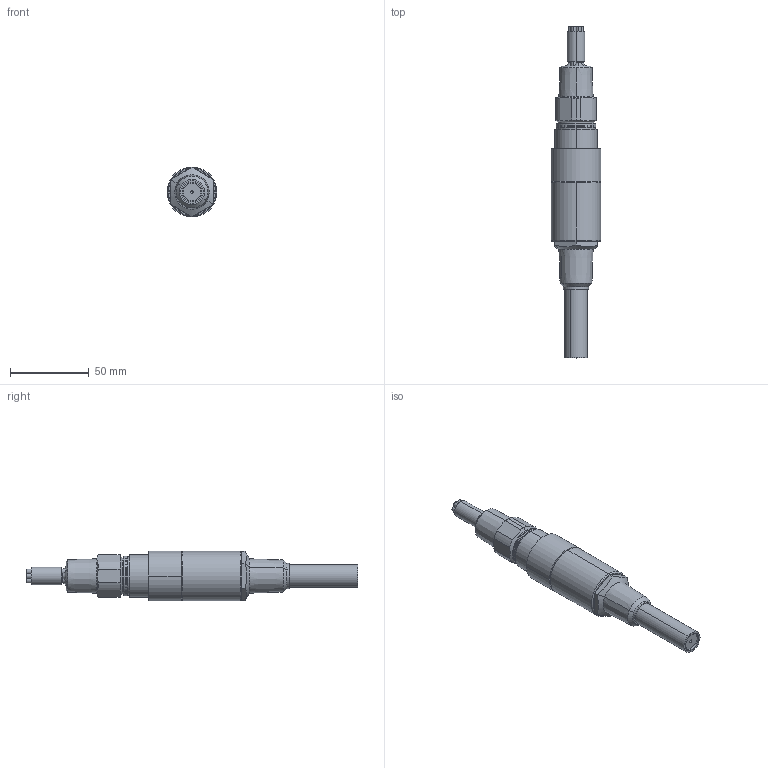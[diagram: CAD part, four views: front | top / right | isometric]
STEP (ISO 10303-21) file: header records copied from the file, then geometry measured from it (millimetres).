
FILE_DESCRIPTION (( 'STEP AP214' ), '1' );
FILE_NAME ('12SXXNL_1_2.STEP', '2025-04-07T11:42:01', ( '' ), ( '' ), 'SwSTEP 2.0', 'SolidWorks 2023', '' );
FILE_SCHEMA (( 'AUTOMOTIVE_DESIGN' ));
Length unit declared in the file: inch
Products named in the file (1): 12SXXNL_1_2
Bounding box: 31.56 x 210.22 x 31.56 mm (x, y, z)
Surface area: 21656.5 mm2 (no closed solid volume)
Topology: 0 solids, 11 shells, 135 faces, 328 edges, 211 vertices
Faces by surface type: cylinder 49, plane 37, cone 29, torus 16, bspline 4
Entity records: 4418 total; most frequent: CARTESIAN_POINT 1212, DIRECTION 722, ORIENTED_EDGE 616, EDGE_CURVE 326, AXIS2_PLACEMENT_3D 313, VERTEX_POINT 211, CIRCLE 181, EDGE_LOOP 153
